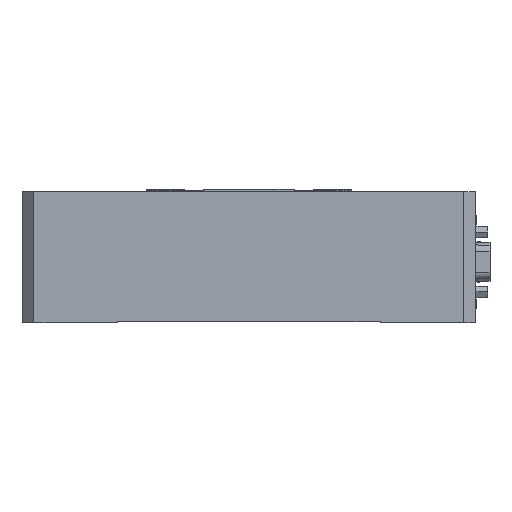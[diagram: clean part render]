
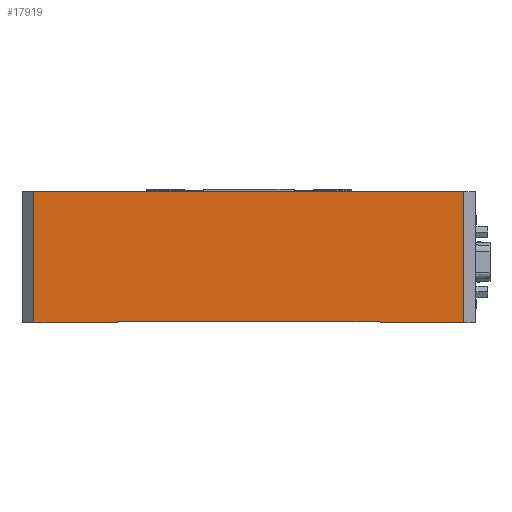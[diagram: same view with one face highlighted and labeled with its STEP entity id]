
A CAD part, left-side view. The second image highlights one B-rep face of the part: STEP entity #17919.
In plain terms, the highlighted planar face has unit normal (-1, 0, 0).
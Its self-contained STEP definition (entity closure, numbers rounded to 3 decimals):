
#310 = EDGE_CURVE ( 'NONE', #28106, #15945, #16503, .T. ) ;
#879 = CARTESIAN_POINT ( 'NONE',  ( -427.308, 77.556, 167.048 ) ) ;
#1878 = CARTESIAN_POINT ( 'NONE',  ( -427.308, -67.444, 111.048 ) ) ;
#1930 = DIRECTION ( 'NONE',  ( 0., 0., 1. ) ) ;
#2329 = CARTESIAN_POINT ( 'NONE',  ( -427.308, 77.556, 166.048 ) ) ;
#2524 = ORIENTED_EDGE ( 'NONE', *, *, #11875, .T. ) ;
#2546 = EDGE_CURVE ( 'NONE', #24098, #5170, #18306, .T. ) ;
#2692 = CARTESIAN_POINT ( 'NONE',  ( -427.308, -107.444, 167.048 ) ) ;
#2848 = ORIENTED_EDGE ( 'NONE', *, *, #30950, .T. ) ;
#3062 = VERTEX_POINT ( 'NONE', #5624 ) ;
#4611 = LINE ( 'NONE', #27445, #23643 ) ;
#4656 = CARTESIAN_POINT ( 'NONE',  ( -427.308, -102.444, 111.048 ) ) ;
#5074 = CARTESIAN_POINT ( 'NONE',  ( -427.308, -107.444, 111.548 ) ) ;
#5092 = LINE ( 'NONE', #5074, #11906 ) ;
#5156 = VERTEX_POINT ( 'NONE', #2329 ) ;
#5170 = VERTEX_POINT ( 'NONE', #14666 ) ;
#5595 = CARTESIAN_POINT ( 'NONE',  ( -427.308, -107.444, 166.048 ) ) ;
#5624 = CARTESIAN_POINT ( 'NONE',  ( -427.308, 42.556, 111.548 ) ) ;
#5658 = CARTESIAN_POINT ( 'NONE',  ( -427.308, -107.444, 111.048 ) ) ;
#7114 = CARTESIAN_POINT ( 'NONE',  ( -427.308, -102.444, 166.048 ) ) ;
#7362 = CARTESIAN_POINT ( 'NONE',  ( -427.308, -67.444, 111.548 ) ) ;
#7540 = LINE ( 'NONE', #28403, #12089 ) ;
#8405 = VECTOR ( 'NONE', #9946, 1000. ) ;
#8826 = VERTEX_POINT ( 'NONE', #4656 ) ;
#8962 = EDGE_CURVE ( 'NONE', #3062, #28106, #5092, .T. ) ;
#9305 = VERTEX_POINT ( 'NONE', #7114 ) ;
#9825 = CARTESIAN_POINT ( 'NONE',  ( -427.308, 77.556, 111.048 ) ) ;
#9900 = ORIENTED_EDGE ( 'NONE', *, *, #8962, .T. ) ;
#9946 = DIRECTION ( 'NONE',  ( 0., 1., 0. ) ) ;
#10357 = VECTOR ( 'NONE', #26234, 1000. ) ;
#11875 = EDGE_CURVE ( 'NONE', #8826, #9305, #4611, .T. ) ;
#11906 = VECTOR ( 'NONE', #24390, 1000. ) ;
#12089 = VECTOR ( 'NONE', #1930, 1000. ) ;
#12269 = LINE ( 'NONE', #879, #12637 ) ;
#12637 = VECTOR ( 'NONE', #15581, 1000. ) ;
#14666 = CARTESIAN_POINT ( 'NONE',  ( -427.308, 42.556, 111.048 ) ) ;
#15581 = DIRECTION ( 'NONE',  ( 0., 0., -1. ) ) ;
#15945 = VERTEX_POINT ( 'NONE', #1878 ) ;
#16210 = ORIENTED_EDGE ( 'NONE', *, *, #310, .T. ) ;
#16395 = ORIENTED_EDGE ( 'NONE', *, *, #28687, .T. ) ;
#16503 = LINE ( 'NONE', #21117, #18384 ) ;
#17466 = EDGE_CURVE ( 'NONE', #15945, #8826, #17576, .T. ) ;
#17576 = LINE ( 'NONE', #23909, #10357 ) ;
#17577 = ORIENTED_EDGE ( 'NONE', *, *, #17466, .T. ) ;
#17919 = ADVANCED_FACE ( 'NONE', ( #23272 ), #27140, .F. ) ;
#18306 = LINE ( 'NONE', #5658, #30085 ) ;
#18384 = VECTOR ( 'NONE', #18993, 1000. ) ;
#18993 = DIRECTION ( 'NONE',  ( 0., 0., -1. ) ) ;
#19808 = DIRECTION ( 'NONE',  ( 0., 0., -1. ) ) ;
#21117 = CARTESIAN_POINT ( 'NONE',  ( -427.308, -67.444, 167.048 ) ) ;
#23272 = FACE_OUTER_BOUND ( 'NONE', #30774, .T. ) ;
#23643 = VECTOR ( 'NONE', #29785, 1000. ) ;
#23909 = CARTESIAN_POINT ( 'NONE',  ( -427.308, -107.444, 111.048 ) ) ;
#24098 = VERTEX_POINT ( 'NONE', #9825 ) ;
#24390 = DIRECTION ( 'NONE',  ( 0., -1., 0. ) ) ;
#26234 = DIRECTION ( 'NONE',  ( 0., -1., 0. ) ) ;
#26336 = AXIS2_PLACEMENT_3D ( 'NONE', #2692, #27348, #19808 ) ;
#27140 = PLANE ( 'NONE',  #26336 ) ;
#27348 = DIRECTION ( 'NONE',  ( 1., 0., 0. ) ) ;
#27445 = CARTESIAN_POINT ( 'NONE',  ( -427.308, -102.444, 167.048 ) ) ;
#27637 = EDGE_CURVE ( 'NONE', #5156, #24098, #12269, .T. ) ;
#27673 = ORIENTED_EDGE ( 'NONE', *, *, #2546, .T. ) ;
#28106 = VERTEX_POINT ( 'NONE', #7362 ) ;
#28349 = ORIENTED_EDGE ( 'NONE', *, *, #27637, .T. ) ;
#28403 = CARTESIAN_POINT ( 'NONE',  ( -427.308, 42.556, 167.048 ) ) ;
#28687 = EDGE_CURVE ( 'NONE', #9305, #5156, #31171, .T. ) ;
#29785 = DIRECTION ( 'NONE',  ( 0., 0., 1. ) ) ;
#30085 = VECTOR ( 'NONE', #30883, 1000. ) ;
#30774 = EDGE_LOOP ( 'NONE', ( #27673, #2848, #9900, #16210, #17577, #2524, #16395, #28349 ) ) ;
#30883 = DIRECTION ( 'NONE',  ( 0., -1., 0. ) ) ;
#30950 = EDGE_CURVE ( 'NONE', #5170, #3062, #7540, .T. ) ;
#31171 = LINE ( 'NONE', #5595, #8405 ) ;
